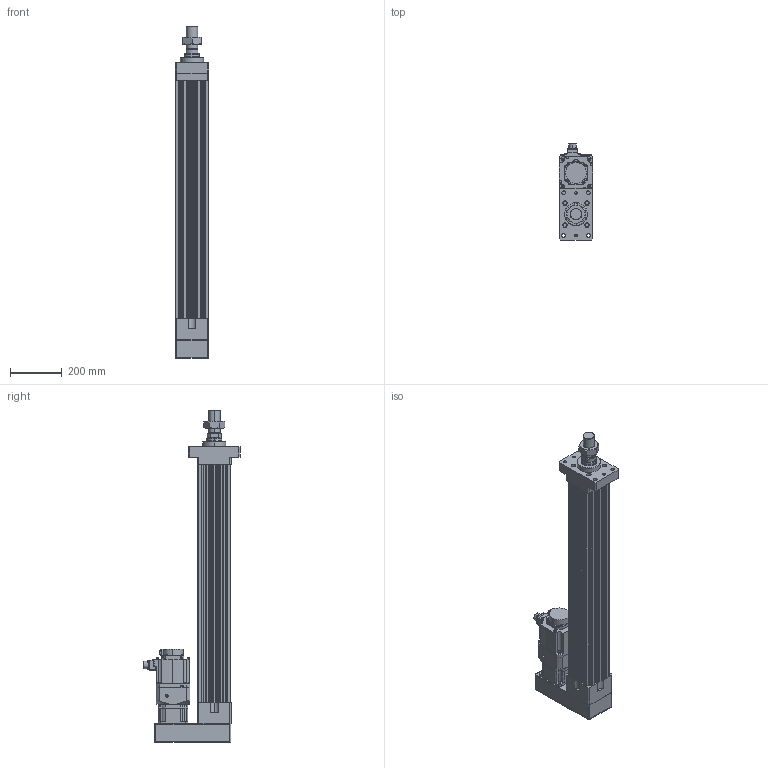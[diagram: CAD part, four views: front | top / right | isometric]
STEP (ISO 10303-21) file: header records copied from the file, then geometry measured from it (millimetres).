
FILE_DESCRIPTION (( 'STEP AP203' ), '1' );
FILE_NAME ('HES130NS(FS)(HS)-P700-W015G00-M-FMB.STEP', '2023-01-29T05:50:24', ( 'tms' ), ( '' ), 'SwSTEP 2.0', 'SolidWorks 2013', '' );
FILE_SCHEMA (( 'CONFIG_CONTROL_DESIGN' ));
Length unit declared in the file: millimetre
Products named in the file (8): HES130 ROD M ST700; P0401400706; HES130-P700-G120-FMB; M45X1.5P; HES130NS(FS)(HS)-P700-W015G00-M-FMB; AB115-003[HG-SR152]; AB1151; HG-SR152
Assembly tree (7 placements, depth 3):
  HES130NS(FS)(HS)-P700-W015G00-M-FMB
    HES130-P700-G120-FMB
    HES130 ROD M ST700
    M45X1.5P
    AB115-003[HG-SR152]
      AB1151
      P0401400706
    HG-SR152
Bounding box: 130 x 372.49 x 1282 mm (x, y, z)
Volume: 14051813.1 mm3; surface area: 1734295.2 mm2
Topology: 4 solids, 11 shells, 1082 faces, 2768 edges, 1799 vertices
Faces by surface type: cylinder 513, plane 489, cone 68, bspline 8, torus 4
Entity records: 34626 total; most frequent: CARTESIAN_POINT 6632, DIRECTION 5993, ORIENTED_EDGE 5484, EDGE_CURVE 2752, AXIS2_PLACEMENT_3D 2228, VERTEX_POINT 1799, VECTOR 1537, LINE 1537
